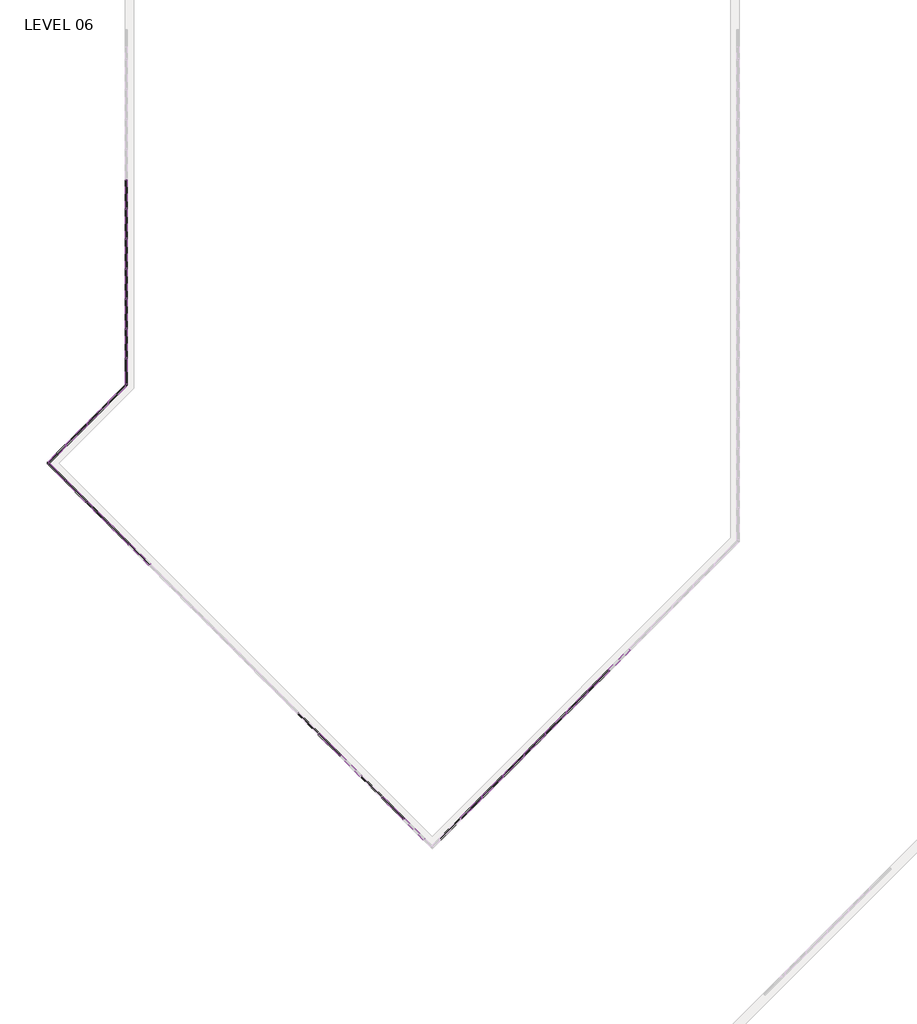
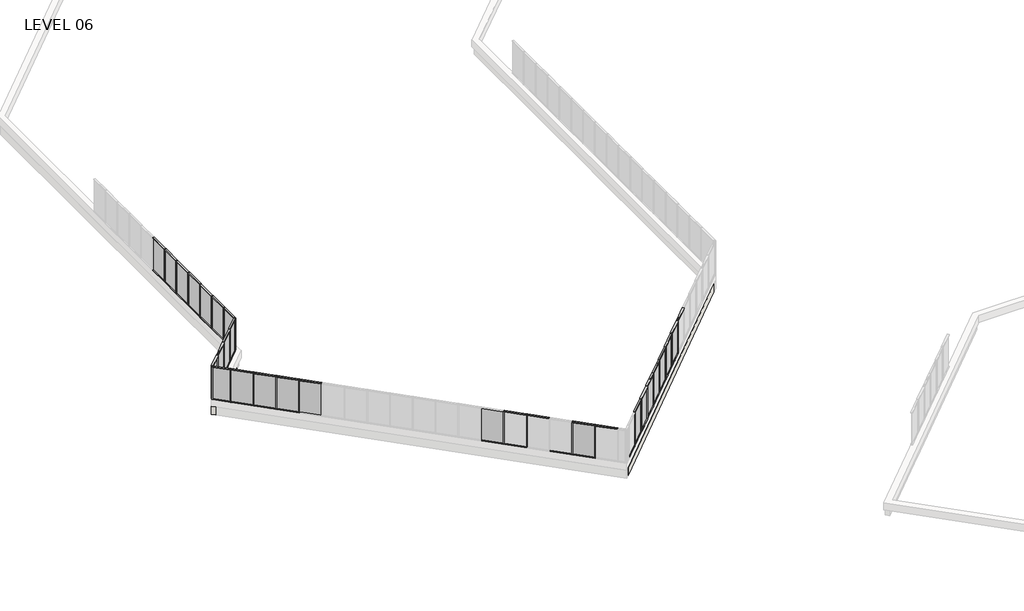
# One storey, part 3 of 17: 84 members, 25 plates, 2 walls.
"""IFC4 building model written with IfcOpenShell, lengths in millimetres."""

from ifc_helpers import new_model, si_unit, origin, place, context, project, spatial, faceted_brep, transform, mapped, element, save
from components import member_5247f267, member_e44af9ab, member_800970d4, member_45eb7f2e, member_53409b32, member_43bac76b, member_0b71a88d, plate_67294edd, plate_aaac5d3d, plate_048e4634, plate_9c66726c, plate_e0fd5134, plate_15429445, plate_0d1907f3, plate_903242d9

model = new_model("IFC4")

# Units and contexts
model_context = context("Model", 3, world=origin())
ifc_project = project(units=[si_unit("LENGTHUNIT", "METRE", prefix="MILLI")], contexts=[model_context])

# Site, building, storey
site = spatial("IfcSite", under=ifc_project)
building = spatial("IfcBuilding", under=site)
storey = spatial("IfcBuildingStorey", under=building, Name="LEVEL 06", Elevation=19596.1)

# Members
placement = place(None, origin())
member_shape = member_5247f267(model_context)
element("IfcMember", 1, ObjectType="Rectangular Mullion : 2\" x 4.5\" rectangular", at=placement, inside=storey, context=model_context, shape_type="MappedRepresentation", body=[
    mapped(member_shape, transform((-32784.0347164, 49110.5675885, 22186.9), x_axis=(0.0, 0.0, 1.0), y_axis=(1.0, 0.0, 0.0), z_axis=(0.0, 1.0, 0.0))),
])
element("IfcMember", 2, ObjectType="Rectangular Mullion : 2\" x 4.5\" rectangular", at=placement, inside=storey, context=model_context, shape_type="MappedRepresentation", body=[
    mapped(member_shape, transform((-32784.0347164, 50634.5675885, 22186.9), x_axis=(0.0, 0.0, 1.0), y_axis=(1.0, 0.0, 0.0), z_axis=(0.0, 1.0, 0.0))),
])
element("IfcMember", 3, ObjectType="Rectangular Mullion : 2\" x 4.5\" rectangular", at=placement, inside=storey, context=model_context, shape_type="MappedRepresentation", body=[
    mapped(member_shape, transform((-32784.0347164, 56730.5675885, 22186.9), x_axis=(0.0, 0.0, 1.0), y_axis=(1.0, 0.0, 0.0), z_axis=(0.0, 1.0, 0.0))),
])
element("IfcMember", 4, ObjectType="Rectangular Mullion : 2\" x 4.5\" rectangular", at=placement, inside=storey, context=model_context, shape_type="MappedRepresentation", body=[
    mapped(member_shape, transform((-32784.0347164, 52158.5675885, 22186.9), x_axis=(0.0, 0.0, 1.0), y_axis=(1.0, 0.0, 0.0), z_axis=(0.0, 1.0, 0.0))),
])
element("IfcMember", 5, ObjectType="Rectangular Mullion : 2\" x 4.5\" rectangular", at=placement, inside=storey, context=model_context, shape_type="MappedRepresentation", body=[
    mapped(member_shape, transform((-32784.0347164, 55206.5675885, 22186.9), x_axis=(0.0, 0.0, 1.0), y_axis=(1.0, 0.0, 0.0), z_axis=(0.0, 1.0, 0.0))),
])
element("IfcMember", 6, ObjectType="Rectangular Mullion : 2\" x 4.5\" rectangular", at=placement, inside=storey, context=model_context, shape_type="MappedRepresentation", body=[
    mapped(member_shape, transform((-32784.0347164, 53682.5675885, 22186.9), x_axis=(0.0, 0.0, 1.0), y_axis=(1.0, 0.0, 0.0), z_axis=(0.0, 1.0, 0.0))),
])
element("IfcMember", 7, ObjectType="Rectangular Mullion : 2\" x 4.5\" rectangular", at=placement, inside=storey, context=model_context, shape_type="MappedRepresentation", body=[
    mapped(member_shape, transform((-8176.5824051, 31737.5637642, 22186.9), x_axis=(0.0, 0.0, 1.0), y_axis=(-0.7071067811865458, 0.7071067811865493, 0.0), z_axis=(-0.7071067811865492, -0.7071067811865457, 0.0))),
])
element("IfcMember", 8, ObjectType="Rectangular Mullion : 2\" x 4.5\" rectangular", at=placement, inside=storey, context=model_context, shape_type="MappedRepresentation", body=[
    mapped(member_shape, transform((-9254.1983379, 30659.9478314, 22186.9), x_axis=(0.0, 0.0, 1.0), y_axis=(-0.7071067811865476, 0.7071067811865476, 0.0), z_axis=(-0.7071067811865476, -0.7071067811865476, 0.0))),
])
element("IfcMember", 9, ObjectType="Rectangular Mullion : 2\" x 4.5\" rectangular", at=placement, inside=storey, context=model_context, shape_type="MappedRepresentation", body=[
    mapped(member_shape, transform((-10331.8142707, 29582.3318986, 22186.9), x_axis=(0.0, 0.0, 1.0), y_axis=(-0.7071067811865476, 0.7071067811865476, 0.0), z_axis=(-0.7071067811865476, -0.7071067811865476, 0.0))),
])
element("IfcMember", 10, ObjectType="Rectangular Mullion : 2\" x 4.5\" rectangular", at=placement, inside=storey, context=model_context, shape_type="MappedRepresentation", body=[
    mapped(member_shape, transform((-11409.4302035, 28504.7159658, 22186.9), x_axis=(0.0, 0.0, 1.0), y_axis=(-0.7071067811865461, 0.707106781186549, 0.0), z_axis=(-0.707106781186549, -0.7071067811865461, 0.0))),
])
element("IfcMember", 11, ObjectType="Rectangular Mullion : 2\" x 4.5\" rectangular", at=placement, inside=storey, context=model_context, shape_type="MappedRepresentation", body=[
    mapped(member_shape, transform((-13564.6768709, 26349.4692984, 22186.9), x_axis=(0.0, 0.0, 1.0), y_axis=(-0.7071067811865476, 0.7071067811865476, 0.0), z_axis=(-0.7071067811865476, -0.7071067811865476, 0.0))),
])
element("IfcMember", 12, ObjectType="Rectangular Mullion : 2\" x 4.5\" rectangular", at=placement, inside=storey, context=model_context, shape_type="MappedRepresentation", body=[
    mapped(member_shape, transform((-12487.0535372, 27427.0926321, 22186.9), x_axis=(0.0, 0.0, 1.0), y_axis=(-0.7071067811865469, 0.7071067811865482, 0.0), z_axis=(-0.7071067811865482, -0.7071067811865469, 0.0))),
])
element("IfcMember", 13, ObjectType="Rectangular Mullion : 2\" x 4.5\" rectangular", at=placement, inside=storey, context=model_context, shape_type="MappedRepresentation", body=[
    mapped(member_shape, transform((-14642.3076054, 25271.8385639, 22186.9), x_axis=(0.0, 0.0, 1.0), y_axis=(-0.7071067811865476, 0.7071067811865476, 0.0), z_axis=(-0.7071067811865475, -0.7071067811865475, 0.0))),
])
element("IfcMember", 14, ObjectType="Rectangular Mullion : 2\" x 4.5\" rectangular", at=placement, inside=storey, context=model_context, shape_type="MappedRepresentation", body=[
    mapped(member_shape, transform((-15719.9383399, 24194.2078294, 22186.9), x_axis=(0.0, 0.0, 1.0), y_axis=(-0.7071067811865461, 0.7071067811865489, 0.0), z_axis=(-0.7071067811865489, -0.7071067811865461, 0.0))),
])
element("IfcMember", 15, ObjectType="Rectangular Mullion : 2\" x 4.5\" rectangular", at=placement, inside=storey, context=model_context, shape_type="MappedRepresentation", body=[
    mapped(member_shape, transform((-19717.6908029, 25235.9175394, 22186.9), x_axis=(0.0, 0.0, 1.0), y_axis=(0.7071067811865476, 0.7071067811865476, 0.0), z_axis=(-0.7071067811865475, 0.7071067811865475, 0.0))),
])
element("IfcMember", 16, ObjectType="Rectangular Mullion : 2\" x 4.5\" rectangular", at=placement, inside=storey, context=model_context, shape_type="MappedRepresentation", body=[
    mapped(member_shape, transform((-22950.547272, 28468.7740085, 22186.9), x_axis=(0.0, 0.0, 1.0), y_axis=(0.7071067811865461, 0.707106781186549, 0.0), z_axis=(-0.707106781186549, 0.7071067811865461, 0.0))),
])
element("IfcMember", 17, ObjectType="Rectangular Mullion : 2\" x 4.5\" rectangular", at=placement, inside=storey, context=model_context, shape_type="MappedRepresentation", body=[
    mapped(member_shape, transform((-18640.0600684, 24158.2868049, 22186.9), x_axis=(0.0, 0.0, 1.0), y_axis=(0.7071067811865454, 0.7071067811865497, 0.0), z_axis=(-0.7071067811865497, 0.7071067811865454, 0.0))),
])
element("IfcMember", 18, ObjectType="Rectangular Mullion : 2\" x 4.5\" rectangular", at=placement, inside=storey, context=model_context, shape_type="MappedRepresentation", body=[
    mapped(member_shape, transform((-21872.9344047, 27391.1611412, 22186.9), x_axis=(0.0, 0.0, 1.0), y_axis=(0.7071067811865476, 0.7071067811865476, 0.0), z_axis=(-0.7071067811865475, 0.7071067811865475, 0.0))),
])
element("IfcMember", 19, ObjectType="Rectangular Mullion : 2\" x 4.5\" rectangular", at=placement, inside=storey, context=model_context, shape_type="MappedRepresentation", body=[
    mapped(member_shape, transform((-32625.1316457, 38143.3583822, 22186.9), x_axis=(0.0, 0.0, 1.0), y_axis=(0.7071067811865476, 0.7071067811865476, 0.0), z_axis=(-0.7071067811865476, 0.7071067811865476, 0.0))),
])
element("IfcMember", 20, ObjectType="Rectangular Mullion : 2\" x 4.5\" rectangular", at=placement, inside=storey, context=model_context, shape_type="MappedRepresentation", body=[
    mapped(member_shape, transform((-33702.7623802, 39220.9891167, 22186.9), x_axis=(0.0, 0.0, 1.0), y_axis=(0.7071067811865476, 0.7071067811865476, 0.0), z_axis=(-0.7071067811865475, 0.7071067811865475, 0.0))),
])
element("IfcMember", 21, ObjectType="Rectangular Mullion : 2\" x 4.5\" rectangular", at=placement, inside=storey, context=model_context, shape_type="MappedRepresentation", body=[
    mapped(member_shape, transform((-34780.3931147, 40298.6198512, 22186.9), x_axis=(0.0, 0.0, 1.0), y_axis=(0.7071067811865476, 0.7071067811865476, 0.0), z_axis=(-0.7071067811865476, 0.7071067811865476, 0.0))),
])
element("IfcMember", 22, ObjectType="Rectangular Mullion : 2\" x 4.5\" rectangular", at=placement, inside=storey, context=model_context, shape_type="MappedRepresentation", body=[
    mapped(member_shape, transform((-35858.0238493, 41376.2505858, 22186.9), x_axis=(0.0, 0.0, 1.0), y_axis=(0.7071067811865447, 0.7071067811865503, 0.0), z_axis=(-0.7071067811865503, 0.7071067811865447, 0.0))),
])
element("IfcMember", 23, ObjectType="Rectangular Mullion : 2\" x 4.5\" rectangular", at=placement, inside=storey, context=model_context, shape_type="MappedRepresentation", body=[
    mapped(member_shape, transform((-34789.2847655, 44248.423675, 22186.9), x_axis=(0.0, 0.0, 1.0), y_axis=(0.7071067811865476, -0.7071067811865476, 0.0), z_axis=(0.7071067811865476, 0.7071067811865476, 0.0))),
])
element("IfcMember", 24, ObjectType="Rectangular Mullion : 2\" x 4.5\" rectangular", at=placement, inside=storey, context=model_context, shape_type="MappedRepresentation", body=[
    mapped(member_shape, transform((-33711.654031, 45326.0544096, 22186.9), x_axis=(0.0, 0.0, 1.0), y_axis=(0.7071067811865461, -0.707106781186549, 0.0), z_axis=(0.7071067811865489, 0.707106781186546, 0.0))),
])
element("IfcMember", 25, ObjectType="Rectangular Mullion : 2\" x 4.5\" rectangular", at=placement, inside=storey, context=model_context, shape_type="MappedRepresentation", body=[
    mapped(member_shape, transform((-32784.0347164, 47637.3675885, 19596.1), x_axis=(0.0, 0.0, -1.0), y_axis=(1.0, 0.0, 0.0), z_axis=(0.0, -1.0, 0.0))),
])
element("IfcMember", 26, ObjectType="Rectangular Mullion : 2\" x 4.5\" rectangular", at=placement, inside=storey, context=model_context, shape_type="MappedRepresentation", body=[
    mapped(member_shape, transform((-32784.0347164, 49161.3675885, 19596.1), x_axis=(0.0, 0.0, -1.0), y_axis=(1.0, 0.0, 0.0), z_axis=(0.0, -1.0, 0.0))),
])
element("IfcMember", 27, ObjectType="Rectangular Mullion : 2\" x 4.5\" rectangular", at=placement, inside=storey, context=model_context, shape_type="MappedRepresentation", body=[
    mapped(member_shape, transform((-32784.0347164, 50685.3675885, 19596.1), x_axis=(0.0, 0.0, -1.0), y_axis=(1.0, 0.0, 0.0), z_axis=(0.0, -1.0, 0.0))),
])
element("IfcMember", 28, ObjectType="Rectangular Mullion : 2\" x 4.5\" rectangular", at=placement, inside=storey, context=model_context, shape_type="MappedRepresentation", body=[
    mapped(member_shape, transform((-32784.0347164, 52209.3675885, 19596.1), x_axis=(0.0, 0.0, -1.0), y_axis=(1.0, 0.0, 0.0), z_axis=(0.0, -1.0, 0.0))),
])
element("IfcMember", 29, ObjectType="Rectangular Mullion : 2\" x 4.5\" rectangular", at=placement, inside=storey, context=model_context, shape_type="MappedRepresentation", body=[
    mapped(member_shape, transform((-32784.0347164, 55257.3675885, 19596.1), x_axis=(0.0, 0.0, -1.0), y_axis=(1.0, 0.0, 0.0), z_axis=(0.0, -1.0, 0.0))),
])
element("IfcMember", 30, ObjectType="Rectangular Mullion : 2\" x 4.5\" rectangular", at=placement, inside=storey, context=model_context, shape_type="MappedRepresentation", body=[
    mapped(member_shape, transform((-32784.0347164, 53733.3675885, 19596.1), x_axis=(0.0, 0.0, -1.0), y_axis=(1.0, 0.0, 0.0), z_axis=(0.0, -1.0, 0.0))),
])
element("IfcMember", 31, ObjectType="Rectangular Mullion : 2\" x 4.5\" rectangular", at=placement, inside=storey, context=model_context, shape_type="MappedRepresentation", body=[
    mapped(member_shape, transform((-8212.5034296, 31701.6427397, 19596.1), x_axis=(0.0, 0.0, -1.0), y_axis=(-0.7071067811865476, 0.7071067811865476, 0.0), z_axis=(0.7071067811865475, 0.7071067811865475, 0.0))),
])
element("IfcMember", 32, ObjectType="Rectangular Mullion : 2\" x 4.5\" rectangular", at=placement, inside=storey, context=model_context, shape_type="MappedRepresentation", body=[
    mapped(member_shape, transform((-9290.1193624, 30624.0268069, 19596.1), x_axis=(0.0, 0.0, -1.0), y_axis=(-0.7071067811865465, 0.7071067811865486, 0.0), z_axis=(0.7071067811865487, 0.7071067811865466, 0.0))),
])
element("IfcMember", 33, ObjectType="Rectangular Mullion : 2\" x 4.5\" rectangular", at=placement, inside=storey, context=model_context, shape_type="MappedRepresentation", body=[
    mapped(member_shape, transform((-10367.7352952, 29546.4108741, 19596.1), x_axis=(0.0, 0.0, -1.0), y_axis=(-0.7071067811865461, 0.707106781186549, 0.0), z_axis=(0.707106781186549, 0.7071067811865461, 0.0))),
])
element("IfcMember", 34, ObjectType="Rectangular Mullion : 2\" x 4.5\" rectangular", at=placement, inside=storey, context=model_context, shape_type="MappedRepresentation", body=[
    mapped(member_shape, transform((-11445.351228, 28468.7949413, 19596.1), x_axis=(0.0, 0.0, -1.0), y_axis=(-0.7071067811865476, 0.7071067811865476, 0.0), z_axis=(0.7071067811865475, 0.7071067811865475, 0.0))),
])
element("IfcMember", 35, ObjectType="Rectangular Mullion : 2\" x 4.5\" rectangular", at=placement, inside=storey, context=model_context, shape_type="MappedRepresentation", body=[
    mapped(member_shape, transform((-13600.5978954, 26313.5482739, 19596.1), x_axis=(0.0, 0.0, -1.0), y_axis=(-0.7071067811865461, 0.7071067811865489, 0.0), z_axis=(0.7071067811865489, 0.7071067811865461, 0.0))),
])
element("IfcMember", 36, ObjectType="Rectangular Mullion : 2\" x 4.5\" rectangular", at=placement, inside=storey, context=model_context, shape_type="MappedRepresentation", body=[
    mapped(member_shape, transform((-12522.9745617, 27391.1716076, 19596.1), x_axis=(0.0, 0.0, -1.0), y_axis=(-0.7071067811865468, 0.7071067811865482, 0.0), z_axis=(0.7071067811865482, 0.7071067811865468, 0.0))),
])
element("IfcMember", 37, ObjectType="Rectangular Mullion : 2\" x 4.5\" rectangular", at=placement, inside=storey, context=model_context, shape_type="MappedRepresentation", body=[
    mapped(member_shape, transform((-14678.2286299, 25235.9175394, 19596.1), x_axis=(0.0, 0.0, -1.0), y_axis=(-0.7071067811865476, 0.7071067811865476, 0.0), z_axis=(0.7071067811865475, 0.7071067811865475, 0.0))),
])
element("IfcMember", 38, ObjectType="Rectangular Mullion : 2\" x 4.5\" rectangular", at=placement, inside=storey, context=model_context, shape_type="MappedRepresentation", body=[
    mapped(member_shape, transform((-15755.8593644, 24158.2868049, 19596.1), x_axis=(0.0, 0.0, -1.0), y_axis=(-0.7071067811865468, 0.7071067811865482, 0.0), z_axis=(0.7071067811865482, 0.7071067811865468, 0.0))),
])
element("IfcMember", 39, ObjectType="Rectangular Mullion : 2\" x 4.5\" rectangular", at=placement, inside=storey, context=model_context, shape_type="MappedRepresentation", body=[
    mapped(member_shape, transform((-19753.6118274, 25271.8385639, 19596.1), x_axis=(0.0, 0.0, -1.0), y_axis=(0.7071067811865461, 0.707106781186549, 0.0), z_axis=(0.7071067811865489, -0.707106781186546, 0.0))),
])
element("IfcMember", 40, ObjectType="Rectangular Mullion : 2\" x 4.5\" rectangular", at=placement, inside=storey, context=model_context, shape_type="MappedRepresentation", body=[
    mapped(member_shape, transform((-22986.4682965, 28504.6950329, 19596.1), x_axis=(0.0, 0.0, -1.0), y_axis=(0.7071067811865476, 0.7071067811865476, 0.0), z_axis=(0.7071067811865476, -0.7071067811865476, 0.0))),
])
element("IfcMember", 41, ObjectType="Rectangular Mullion : 2\" x 4.5\" rectangular", at=placement, inside=storey, context=model_context, shape_type="MappedRepresentation", body=[
    mapped(member_shape, transform((-18675.9810929, 24194.2078294, 19596.1), x_axis=(0.0, 0.0, -1.0), y_axis=(0.7071067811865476, 0.7071067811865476, 0.0), z_axis=(0.7071067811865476, -0.7071067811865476, 0.0))),
])
element("IfcMember", 42, ObjectType="Rectangular Mullion : 2\" x 4.5\" rectangular", at=placement, inside=storey, context=model_context, shape_type="MappedRepresentation", body=[
    mapped(member_shape, transform((-21908.8554292, 27427.0821657, 19596.1), x_axis=(0.0, 0.0, -1.0), y_axis=(0.7071067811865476, 0.7071067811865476, 0.0), z_axis=(0.7071067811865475, -0.7071067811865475, 0.0))),
])
element("IfcMember", 43, ObjectType="Rectangular Mullion : 2\" x 4.5\" rectangular", at=placement, inside=storey, context=model_context, shape_type="MappedRepresentation", body=[
    mapped(member_shape, transform((-32661.0526702, 38179.2794067, 19596.1), x_axis=(0.0, 0.0, -1.0), y_axis=(0.7071067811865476, 0.7071067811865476, 0.0), z_axis=(0.7071067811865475, -0.7071067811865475, 0.0))),
])
element("IfcMember", 44, ObjectType="Rectangular Mullion : 2\" x 4.5\" rectangular", at=placement, inside=storey, context=model_context, shape_type="MappedRepresentation", body=[
    mapped(member_shape, transform((-33738.6834047, 39256.9101412, 19596.1), x_axis=(0.0, 0.0, -1.0), y_axis=(0.7071067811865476, 0.7071067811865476, 0.0), z_axis=(0.7071067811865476, -0.7071067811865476, 0.0))),
])
element("IfcMember", 45, ObjectType="Rectangular Mullion : 2\" x 4.5\" rectangular", at=placement, inside=storey, context=model_context, shape_type="MappedRepresentation", body=[
    mapped(member_shape, transform((-34816.3141392, 40334.5408757, 19596.1), x_axis=(0.0, 0.0, -1.0), y_axis=(0.7071067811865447, 0.7071067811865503, 0.0), z_axis=(0.7071067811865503, -0.7071067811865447, 0.0))),
])
element("IfcMember", 46, ObjectType="Rectangular Mullion : 2\" x 4.5\" rectangular", at=placement, inside=storey, context=model_context, shape_type="MappedRepresentation", body=[
    mapped(member_shape, transform((-34753.363741, 44284.3446995, 19596.1), x_axis=(0.0, 0.0, -1.0), y_axis=(0.7071067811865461, -0.707106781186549, 0.0), z_axis=(-0.7071067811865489, -0.707106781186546, 0.0))),
])
element("IfcMember", 47, ObjectType="Rectangular Mullion : 2\" x 4.5\" rectangular", at=placement, inside=storey, context=model_context, shape_type="MappedRepresentation", body=[
    mapped(member_shape, transform((-35830.9944756, 43206.713965, 19596.1), x_axis=(0.0, 0.0, -1.0), y_axis=(0.7071067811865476, -0.7071067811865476, 0.0), z_axis=(-0.7071067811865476, -0.7071067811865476, 0.0))),
])
member_2_shape = member_e44af9ab(model_context)
element("IfcMember", 48, ObjectType="Rectangular Mullion : 2\" x 4.5\" rectangular", at=placement, inside=storey, context=model_context, shape_type="MappedRepresentation", body=[
    mapped(member_2_shape, transform((-32784.0347164, 47611.9675885, 19596.1), x_axis=(0.0, 1.0, 0.0), y_axis=(1.0, 0.0, 0.0), z_axis=(0.0, 0.0, -1.0))),
])
element("IfcMember", 49, ObjectType="Rectangular Mullion : 2\" x 4.5\" rectangular", at=placement, inside=storey, context=model_context, shape_type="MappedRepresentation", body=[
    mapped(member_2_shape, transform((-32784.0347164, 49135.9675885, 19596.1), x_axis=(0.0, 1.0, 0.0), y_axis=(1.0, 0.0, 0.0), z_axis=(0.0, 0.0, -1.0))),
])
element("IfcMember", 50, ObjectType="Rectangular Mullion : 2\" x 4.5\" rectangular", at=placement, inside=storey, context=model_context, shape_type="MappedRepresentation", body=[
    mapped(member_2_shape, transform((-32784.0347164, 50659.9675885, 19596.1), x_axis=(0.0, 1.0, 0.0), y_axis=(1.0, 0.0, 0.0), z_axis=(0.0, 0.0, -1.0))),
])
element("IfcMember", 51, ObjectType="Rectangular Mullion : 2\" x 4.5\" rectangular", at=placement, inside=storey, context=model_context, shape_type="MappedRepresentation", body=[
    mapped(member_2_shape, transform((-32784.0347164, 52183.9675885, 19596.1), x_axis=(0.0, 1.0, 0.0), y_axis=(1.0, 0.0, 0.0), z_axis=(0.0, 0.0, -1.0))),
])
element("IfcMember", 52, ObjectType="Rectangular Mullion : 2\" x 4.5\" rectangular", at=placement, inside=storey, context=model_context, shape_type="MappedRepresentation", body=[
    mapped(member_2_shape, transform((-32784.0347164, 55231.9675885, 19596.1), x_axis=(0.0, 1.0, 0.0), y_axis=(1.0, 0.0, 0.0), z_axis=(0.0, 0.0, -1.0))),
])
element("IfcMember", 53, ObjectType="Rectangular Mullion : 2\" x 4.5\" rectangular", at=placement, inside=storey, context=model_context, shape_type="MappedRepresentation", body=[
    mapped(member_2_shape, transform((-32784.0347164, 53707.9675885, 19596.1), x_axis=(0.0, 1.0, 0.0), y_axis=(1.0, 0.0, 0.0), z_axis=(0.0, 0.0, -1.0))),
])
element("IfcMember", 54, ObjectType="Rectangular Mullion : 2\" x 4.5\" rectangular", at=placement, inside=storey, context=model_context, shape_type="MappedRepresentation", body=[
    mapped(member_2_shape, transform((-8194.5429174, 31719.6032519, 19596.1), x_axis=(-0.7071067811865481, -0.7071067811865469, 0.0), y_axis=(-0.7071067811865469, 0.7071067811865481, 0.0), z_axis=(0.0, 0.0, -1.0))),
])
element("IfcMember", 55, ObjectType="Rectangular Mullion : 2\" x 4.5\" rectangular", at=placement, inside=storey, context=model_context, shape_type="MappedRepresentation", body=[
    mapped(member_2_shape, transform((-9272.1588502, 30641.9873191, 19596.1), x_axis=(-0.7071067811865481, -0.7071067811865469, 0.0), y_axis=(-0.7071067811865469, 0.7071067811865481, 0.0), z_axis=(0.0, 0.0, -1.0))),
])
element("IfcMember", 56, ObjectType="Rectangular Mullion : 2\" x 4.5\" rectangular", at=placement, inside=storey, context=model_context, shape_type="MappedRepresentation", body=[
    mapped(member_2_shape, transform((-10349.774783, 29564.3713863, 19596.1), x_axis=(-0.7071067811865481, -0.7071067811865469, 0.0), y_axis=(-0.7071067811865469, 0.7071067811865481, 0.0), z_axis=(0.0, 0.0, -1.0))),
])
element("IfcMember", 57, ObjectType="Rectangular Mullion : 2\" x 4.5\" rectangular", at=placement, inside=storey, context=model_context, shape_type="MappedRepresentation", body=[
    mapped(member_2_shape, transform((-11427.3907158, 28486.7554535, 19596.1), x_axis=(-0.7071067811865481, -0.7071067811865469, 0.0), y_axis=(-0.7071067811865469, 0.7071067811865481, 0.0), z_axis=(0.0, 0.0, -1.0))),
])
element("IfcMember", 58, ObjectType="Rectangular Mullion : 2\" x 4.5\" rectangular", at=placement, inside=storey, context=model_context, shape_type="MappedRepresentation", body=[
    mapped(member_2_shape, transform((-13582.6373831, 26331.5087862, 19596.1), x_axis=(-0.7071067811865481, -0.7071067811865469, 0.0), y_axis=(-0.7071067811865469, 0.7071067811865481, 0.0), z_axis=(0.0, 0.0, -1.0))),
])
element("IfcMember", 59, ObjectType="Rectangular Mullion : 2\" x 4.5\" rectangular", at=placement, inside=storey, context=model_context, shape_type="MappedRepresentation", body=[
    mapped(member_2_shape, transform((-12505.0140495, 27409.1321198, 19596.1), x_axis=(-0.7071067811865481, -0.7071067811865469, 0.0), y_axis=(-0.7071067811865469, 0.7071067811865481, 0.0), z_axis=(0.0, 0.0, -1.0))),
])
element("IfcMember", 60, ObjectType="Rectangular Mullion : 2\" x 4.5\" rectangular", at=placement, inside=storey, context=model_context, shape_type="MappedRepresentation", body=[
    mapped(member_2_shape, transform((-14660.2681176, 25253.8780517, 19596.1), x_axis=(-0.7071067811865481, -0.7071067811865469, 0.0), y_axis=(-0.7071067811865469, 0.7071067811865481, 0.0), z_axis=(0.0, 0.0, -1.0))),
])
element("IfcMember", 61, ObjectType="Rectangular Mullion : 2\" x 4.5\" rectangular", at=placement, inside=storey, context=model_context, shape_type="MappedRepresentation", body=[
    mapped(member_2_shape, transform((-15737.8988522, 24176.2473171, 19596.1), x_axis=(-0.7071067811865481, -0.7071067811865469, 0.0), y_axis=(-0.7071067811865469, 0.7071067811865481, 0.0), z_axis=(0.0, 0.0, -1.0))),
])
element("IfcMember", 62, ObjectType="Rectangular Mullion : 2\" x 4.5\" rectangular", at=placement, inside=storey, context=model_context, shape_type="MappedRepresentation", body=[
    mapped(member_2_shape, transform((-19735.6513152, 25253.8780517, 19596.1), x_axis=(-0.7071067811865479, 0.7071067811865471, 0.0), y_axis=(0.7071067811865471, 0.7071067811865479, 0.0), z_axis=(0.0, 0.0, -1.0))),
])
element("IfcMember", 63, ObjectType="Rectangular Mullion : 2\" x 4.5\" rectangular", at=placement, inside=storey, context=model_context, shape_type="MappedRepresentation", body=[
    mapped(member_2_shape, transform((-22968.5077842, 28486.7345207, 19596.1), x_axis=(-0.7071067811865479, 0.7071067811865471, 0.0), y_axis=(0.7071067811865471, 0.7071067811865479, 0.0), z_axis=(0.0, 0.0, -1.0))),
])
element("IfcMember", 64, ObjectType="Rectangular Mullion : 2\" x 4.5\" rectangular", at=placement, inside=storey, context=model_context, shape_type="MappedRepresentation", body=[
    mapped(member_2_shape, transform((-18658.0205806, 24176.2473171, 19596.1), x_axis=(-0.7071067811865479, 0.7071067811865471, 0.0), y_axis=(0.7071067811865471, 0.7071067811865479, 0.0), z_axis=(0.0, 0.0, -1.0))),
])
element("IfcMember", 65, ObjectType="Rectangular Mullion : 2\" x 4.5\" rectangular", at=placement, inside=storey, context=model_context, shape_type="MappedRepresentation", body=[
    mapped(member_2_shape, transform((-21890.894917, 27409.1216534, 19596.1), x_axis=(-0.7071067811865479, 0.7071067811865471, 0.0), y_axis=(0.7071067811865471, 0.7071067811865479, 0.0), z_axis=(0.0, 0.0, -1.0))),
])
element("IfcMember", 66, ObjectType="Rectangular Mullion : 2\" x 4.5\" rectangular", at=placement, inside=storey, context=model_context, shape_type="MappedRepresentation", body=[
    mapped(member_2_shape, transform((-32643.0921579, 38161.3188944, 19596.1), x_axis=(-0.7071067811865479, 0.7071067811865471, 0.0), y_axis=(0.7071067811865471, 0.7071067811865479, 0.0), z_axis=(0.0, 0.0, -1.0))),
])
element("IfcMember", 67, ObjectType="Rectangular Mullion : 2\" x 4.5\" rectangular", at=placement, inside=storey, context=model_context, shape_type="MappedRepresentation", body=[
    mapped(member_2_shape, transform((-33720.7228924, 39238.9496289, 19596.1), x_axis=(-0.7071067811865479, 0.7071067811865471, 0.0), y_axis=(0.7071067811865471, 0.7071067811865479, 0.0), z_axis=(0.0, 0.0, -1.0))),
])
element("IfcMember", 68, ObjectType="Rectangular Mullion : 2\" x 4.5\" rectangular", at=placement, inside=storey, context=model_context, shape_type="MappedRepresentation", body=[
    mapped(member_2_shape, transform((-34798.353627, 40316.5803635, 19596.1), x_axis=(-0.7071067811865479, 0.7071067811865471, 0.0), y_axis=(0.7071067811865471, 0.7071067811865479, 0.0), z_axis=(0.0, 0.0, -1.0))),
])
element("IfcMember", 69, ObjectType="Rectangular Mullion : 2\" x 4.5\" rectangular", at=placement, inside=storey, context=model_context, shape_type="MappedRepresentation", body=[
    mapped(member_2_shape, transform((-35875.9843615, 41394.211098, 19596.1), x_axis=(-0.7071067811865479, 0.7071067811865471, 0.0), y_axis=(0.7071067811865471, 0.7071067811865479, 0.0), z_axis=(0.0, 0.0, -1.0))),
])
element("IfcMember", 70, ObjectType="Rectangular Mullion : 2\" x 4.5\" rectangular", at=placement, inside=storey, context=model_context, shape_type="MappedRepresentation", body=[
    mapped(member_2_shape, transform((-34771.3242533, 44266.3841873, 19596.1), x_axis=(0.7071067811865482, 0.7071067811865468, 0.0), y_axis=(0.7071067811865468, -0.7071067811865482, 0.0), z_axis=(0.0, 0.0, -1.0))),
])
element("IfcMember", 71, ObjectType="Rectangular Mullion : 2\" x 4.5\" rectangular", at=placement, inside=storey, context=model_context, shape_type="MappedRepresentation", body=[
    mapped(member_2_shape, transform((-33693.6935187, 45344.0149218, 19596.1), x_axis=(0.7071067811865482, 0.7071067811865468, 0.0), y_axis=(0.7071067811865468, -0.7071067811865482, 0.0), z_axis=(0.0, 0.0, -1.0))),
])
element("IfcMember", 72, ObjectType="Rectangular Mullion : 2\" x 4.5\" rectangular", at=placement, inside=storey, context=model_context, shape_type="MappedRepresentation", body=[
    mapped(member_2_shape, transform((-35848.9549878, 43188.7534527, 19596.1), x_axis=(0.7071067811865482, 0.7071067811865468, 0.0), y_axis=(0.7071067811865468, -0.7071067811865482, 0.0), z_axis=(0.0, 0.0, -1.0))),
])
member_3_shape = member_800970d4(model_context)
element("IfcMember", 73, ObjectType="Rectangular Mullion : 2\" x 4.5\" rectangular", at=placement, inside=storey, context=model_context, shape_type="MappedRepresentation", body=[
    mapped(member_3_shape, transform((-36759.740852, 42277.9675885, 19596.1), x_axis=(-0.7071067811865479, 0.7071067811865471, 0.0), y_axis=(0.7071067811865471, 0.7071067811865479, 0.0), z_axis=(0.0, 0.0, -1.0))),
])
element("IfcMember", 74, ObjectType="Rectangular Mullion : 2\" x 4.5\" rectangular", at=placement, inside=storey, context=model_context, shape_type="MappedRepresentation", body=[
    mapped(member_3_shape, transform((-32784.0347164, 46253.6737241, 19596.1), x_axis=(0.7071067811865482, 0.7071067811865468, 0.0), y_axis=(0.7071067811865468, -0.7071067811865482, 0.0), z_axis=(0.0, 0.0, -1.0))),
])
element("IfcMember", 75, ObjectType="Rectangular Mullion : 2\" x 4.5\" rectangular", at=placement, inside=storey, context=model_context, shape_type="MappedRepresentation", body=[
    mapped(member_3_shape, transform((-32784.0347164, 46253.6737241, 22186.9), x_axis=(0.0, -1.0, 0.0), y_axis=(1.0, 0.0, 0.0), z_axis=(0.0, 0.0, 1.0))),
])
element("IfcMember", 76, ObjectType="Rectangular Mullion : 2\" x 4.5\" rectangular", at=placement, inside=storey, context=model_context, shape_type="MappedRepresentation", body=[
    mapped(member_3_shape, transform((-36759.740852, 42277.9675885, 22186.9), x_axis=(-0.7071067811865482, -0.7071067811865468, 0.0), y_axis=(0.7071067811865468, -0.7071067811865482, 0.0), z_axis=(0.0, 0.0, 1.0))),
])
member_4_shape = member_45eb7f2e(model_context)
element("IfcMember", 77, ObjectType="Rectangular Mullion : 2\" x 4.5\" rectangular", at=placement, inside=storey, context=model_context, shape_type="MappedRepresentation", body=[
    mapped(member_4_shape, transform((-32784.0347164, 47586.5675885, 22186.9), x_axis=(0.0, 0.0, 1.0), y_axis=(1.0, 0.0, 0.0), z_axis=(0.0, 1.0, 0.0))),
])
element("IfcMember", 78, ObjectType="Rectangular Mullion : 2\" x 4.5\" rectangular", at=placement, inside=storey, context=model_context, shape_type="MappedRepresentation", body=[
    mapped(member_4_shape, transform((-32784.0347164, 46304.4737241, 19596.1), x_axis=(0.0, 0.0, -1.0), y_axis=(1.0, 0.0, 0.0), z_axis=(0.0, -1.0, 0.0))),
])
member_5_shape = member_53409b32(model_context)
element("IfcMember", 79, ObjectType="Rectangular Mullion : 2\" x 4.5\" rectangular", at=placement, inside=storey, context=model_context, shape_type="MappedRepresentation", body=[
    mapped(member_5_shape, transform((-36723.8198275, 42242.046564, 22186.9), x_axis=(0.0, 0.0, 1.0), y_axis=(0.7071067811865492, 0.7071067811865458, 0.0), z_axis=(-0.7071067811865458, 0.7071067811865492, 0.0))),
])
element("IfcMember", 80, ObjectType="Rectangular Mullion : 2\" x 4.5\" rectangular", at=placement, inside=storey, context=model_context, shape_type="MappedRepresentation", body=[
    mapped(member_5_shape, transform((-35893.9448737, 41412.1716102, 19596.1), x_axis=(0.0, 0.0, -1.0), y_axis=(0.7071067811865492, 0.7071067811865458, 0.0), z_axis=(0.7071067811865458, -0.7071067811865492, 0.0))),
])
member_6_shape = member_43bac76b(model_context)
element("IfcMember", 81, ObjectType="Rectangular Mullion : 2\" x 4.5\" rectangular", at=placement, inside=storey, context=model_context, shape_type="MappedRepresentation", body=[
    mapped(member_6_shape, transform((-32819.9557409, 46217.7526997, 22186.9), x_axis=(0.0, 0.0, 1.0), y_axis=(0.7071067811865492, -0.7071067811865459, 0.0), z_axis=(0.7071067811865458, 0.7071067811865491, 0.0))),
])
member_7_shape = member_0b71a88d(model_context)
element("IfcMember", 82, ObjectType="Rectangular Mullion : 2\" x 4.5\" rectangular", at=placement, inside=storey, context=model_context, shape_type="MappedRepresentation", body=[
    mapped(member_7_shape, transform((-36723.8198275, 42313.888613, 19596.1), x_axis=(0.0, 0.0, -1.0), y_axis=(0.7071067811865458, -0.7071067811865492, 0.0), z_axis=(-0.7071067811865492, -0.7071067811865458, 0.0))),
])
element("IfcMember", 83, ObjectType="Rectangular Mullion : 2\" x 4.5\" rectangular", at=placement, inside=storey, context=model_context, shape_type="MappedRepresentation", body=[
    mapped(member_6_shape, transform((-33675.7330065, 45361.975434, 19596.1), x_axis=(0.0, 0.0, -1.0), y_axis=(0.7071067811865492, -0.7071067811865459, 0.0), z_axis=(-0.7071067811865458, -0.7071067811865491, 0.0))),
])
element("IfcMember", 84, ObjectType="Rectangular Mullion : 2\" x 4.5\" rectangular", at=placement, inside=storey, context=model_context, shape_type="MappedRepresentation", body=[
    mapped(member_7_shape, transform((-35866.9155, 43170.7929405, 22186.9), x_axis=(0.0, 0.0, 1.0), y_axis=(0.7071067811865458, -0.7071067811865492, 0.0), z_axis=(0.7071067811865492, 0.7071067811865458, 0.0))),
])

# Plates
plate_shape = plate_67294edd(model_context)
element("IfcPlate", 85, ObjectType="System Panel : 1/4\" Glass", at=placement, inside=storey, context=model_context, shape_type="MappedRepresentation", body=[
    mapped(plate_shape, transform((-32784.0347164, 48373.9675885, 19646.9), x_axis=(0.0, 1.0, 0.0), y_axis=(-1.0, 0.0, 0.0), z_axis=(0.0, 0.0, 1.0))),
])
element("IfcPlate", 86, ObjectType="System Panel : 1/4\" Glass", at=placement, inside=storey, context=model_context, shape_type="MappedRepresentation", body=[
    mapped(plate_shape, transform((-32784.0347164, 49897.9675885, 19646.9), x_axis=(0.0, 1.0, 0.0), y_axis=(-1.0, 0.0, 0.0), z_axis=(0.0, 0.0, 1.0))),
])
element("IfcPlate", 87, ObjectType="System Panel : 1/4\" Glass", at=placement, inside=storey, context=model_context, shape_type="MappedRepresentation", body=[
    mapped(plate_shape, transform((-32784.0347164, 51421.9675885, 19646.9), x_axis=(0.0, 1.0, 0.0), y_axis=(-1.0, 0.0, 0.0), z_axis=(0.0, 0.0, 1.0))),
])
element("IfcPlate", 88, ObjectType="System Panel : 1/4\" Glass", at=placement, inside=storey, context=model_context, shape_type="MappedRepresentation", body=[
    mapped(plate_shape, transform((-32784.0347164, 52945.9675885, 19646.9), x_axis=(0.0, 1.0, 0.0), y_axis=(-1.0, 0.0, 0.0), z_axis=(0.0, 0.0, 1.0))),
])
element("IfcPlate", 89, ObjectType="System Panel : 1/4\" Glass", at=placement, inside=storey, context=model_context, shape_type="MappedRepresentation", body=[
    mapped(plate_shape, transform((-32784.0347164, 55993.9675885, 19646.9), x_axis=(0.0, 1.0, 0.0), y_axis=(-1.0, 0.0, 0.0), z_axis=(0.0, 0.0, 1.0))),
])
element("IfcPlate", 90, ObjectType="System Panel : 1/4\" Glass", at=placement, inside=storey, context=model_context, shape_type="MappedRepresentation", body=[
    mapped(plate_shape, transform((-32784.0347164, 54469.9675885, 19646.9), x_axis=(0.0, 1.0, 0.0), y_axis=(-1.0, 0.0, 0.0), z_axis=(0.0, 0.0, 1.0))),
])
element("IfcPlate", 91, ObjectType="System Panel : 1/4\" Glass", at=placement, inside=storey, context=model_context, shape_type="MappedRepresentation", body=[
    mapped(plate_shape, transform((-14121.4527504, 25792.6934189, 19646.9), x_axis=(-0.7071067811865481, -0.7071067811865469, 0.0), y_axis=(0.7071067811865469, -0.7071067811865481, 0.0), z_axis=(0.0, 0.0, 1.0))),
])
element("IfcPlate", 92, ObjectType="System Panel : 1/4\" Glass", at=placement, inside=storey, context=model_context, shape_type="MappedRepresentation", body=[
    mapped(plate_shape, transform((-15199.0834849, 24715.0626844, 19646.9), x_axis=(-0.7071067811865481, -0.7071067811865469, 0.0), y_axis=(0.7071067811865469, -0.7071067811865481, 0.0), z_axis=(0.0, 0.0, 1.0))),
])
element("IfcPlate", 93, ObjectType="System Panel : 1/4\" Glass", at=placement, inside=storey, context=model_context, shape_type="MappedRepresentation", body=[
    mapped(plate_shape, transform((-32104.2767907, 37622.5035271, 19646.9), x_axis=(-0.7071067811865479, 0.7071067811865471, 0.0), y_axis=(-0.7071067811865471, -0.7071067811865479, 0.0), z_axis=(0.0, 0.0, 1.0))),
])
element("IfcPlate", 94, ObjectType="System Panel : 1/4\" Glass", at=placement, inside=storey, context=model_context, shape_type="MappedRepresentation", body=[
    mapped(plate_shape, transform((-19196.8359479, 24715.0626844, 19646.9), x_axis=(-0.7071067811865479, 0.7071067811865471, 0.0), y_axis=(-0.7071067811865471, -0.7071067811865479, 0.0), z_axis=(0.0, 0.0, 1.0))),
])
element("IfcPlate", 95, ObjectType="System Panel : 1/4\" Glass", at=placement, inside=storey, context=model_context, shape_type="MappedRepresentation", body=[
    mapped(plate_shape, transform((-33181.9075252, 38700.1342617, 19646.9), x_axis=(-0.7071067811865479, 0.7071067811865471, 0.0), y_axis=(-0.7071067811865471, -0.7071067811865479, 0.0), z_axis=(0.0, 0.0, 1.0))),
])
element("IfcPlate", 96, ObjectType="System Panel : 1/4\" Glass", at=placement, inside=storey, context=model_context, shape_type="MappedRepresentation", body=[
    mapped(plate_shape, transform((-34259.5382597, 39777.7649962, 19646.9), x_axis=(-0.7071067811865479, 0.7071067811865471, 0.0), y_axis=(-0.7071067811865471, -0.7071067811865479, 0.0), z_axis=(0.0, 0.0, 1.0))),
])
element("IfcPlate", 97, ObjectType="System Panel : 1/4\" Glass", at=placement, inside=storey, context=model_context, shape_type="MappedRepresentation", body=[
    mapped(plate_shape, transform((-35337.1689942, 40855.3957307, 19646.9), x_axis=(-0.7071067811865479, 0.7071067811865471, 0.0), y_axis=(-0.7071067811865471, -0.7071067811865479, 0.0), z_axis=(0.0, 0.0, 1.0))),
])
element("IfcPlate", 98, ObjectType="System Panel : 1/4\" Glass", at=placement, inside=storey, context=model_context, shape_type="MappedRepresentation", body=[
    mapped(plate_shape, transform((-34232.508886, 44805.1995545, 19646.9), x_axis=(0.7071067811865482, 0.7071067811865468, 0.0), y_axis=(-0.7071067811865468, 0.7071067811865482, 0.0), z_axis=(0.0, 0.0, 1.0))),
])
element("IfcPlate", 99, ObjectType="System Panel : 1/4\" Glass", at=placement, inside=storey, context=model_context, shape_type="MappedRepresentation", body=[
    mapped(plate_shape, transform((-35310.1396205, 43727.56882, 19646.9), x_axis=(0.7071067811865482, 0.7071067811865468, 0.0), y_axis=(-0.7071067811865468, 0.7071067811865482, 0.0), z_axis=(0.0, 0.0, 1.0))),
])
plate_2_shape = plate_aaac5d3d(model_context)
element("IfcPlate", 100, ObjectType="System Panel : 1/4\" Glass", at=placement, inside=storey, context=model_context, shape_type="MappedRepresentation", body=[
    mapped(plate_2_shape, transform((-8733.3508838, 31180.7952855, 19646.9), x_axis=(-0.7071067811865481, -0.7071067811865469, 0.0), y_axis=(0.7071067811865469, -0.7071067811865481, 0.0), z_axis=(0.0, 0.0, 1.0))),
])
element("IfcPlate", 101, ObjectType="System Panel : 1/4\" Glass", at=placement, inside=storey, context=model_context, shape_type="MappedRepresentation", body=[
    mapped(plate_2_shape, transform((-9810.9668166, 30103.1793527, 19646.9), x_axis=(-0.7071067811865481, -0.7071067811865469, 0.0), y_axis=(0.7071067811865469, -0.7071067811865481, 0.0), z_axis=(0.0, 0.0, 1.0))),
])
element("IfcPlate", 102, ObjectType="System Panel : 1/4\" Glass", at=placement, inside=storey, context=model_context, shape_type="MappedRepresentation", body=[
    mapped(plate_2_shape, transform((-10888.5827494, 29025.5634199, 19646.9), x_axis=(-0.7071067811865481, -0.7071067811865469, 0.0), y_axis=(0.7071067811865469, -0.7071067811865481, 0.0), z_axis=(0.0, 0.0, 1.0))),
])
plate_3_shape = plate_048e4634(model_context)
element("IfcPlate", 103, ObjectType="System Panel : 1/4\" Glass", at=placement, inside=storey, context=model_context, shape_type="MappedRepresentation", body=[
    mapped(plate_3_shape, transform((-23507.3052842, 29025.5320207, 19646.9), x_axis=(-0.7071067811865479, 0.7071067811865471, 0.0), y_axis=(-0.7071067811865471, -0.7071067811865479, 0.0), z_axis=(0.0, 0.0, 1.0))),
])
plate_4_shape = plate_9c66726c(model_context)
element("IfcPlate", 104, ObjectType="System Panel : 1/4\" Glass", at=placement, inside=storey, context=model_context, shape_type="MappedRepresentation", body=[
    mapped(plate_4_shape, transform((-32784.0347164, 46945.5206563, 19646.9), x_axis=(0.0, 1.0, 0.0), y_axis=(-1.0, 0.0, 0.0), z_axis=(0.0, 0.0, 1.0))),
])
plate_5_shape = plate_e0fd5134(model_context)
element("IfcPlate", 105, ObjectType="System Panel : 1/4\" Glass", at=placement, inside=storey, context=model_context, shape_type="MappedRepresentation", body=[
    mapped(plate_5_shape, transform((-11966.2023826, 27947.9437867, 19646.9), x_axis=(-0.7071067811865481, -0.7071067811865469, 0.0), y_axis=(0.7071067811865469, -0.7071067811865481, 0.0), z_axis=(0.0, 0.0, 1.0))),
])
element("IfcPlate", 106, ObjectType="System Panel : 1/4\" Glass", at=placement, inside=storey, context=model_context, shape_type="MappedRepresentation", body=[
    mapped(plate_5_shape, transform((-13043.8257163, 26870.320453, 19646.9), x_axis=(-0.7071067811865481, -0.7071067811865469, 0.0), y_axis=(0.7071067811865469, -0.7071067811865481, 0.0), z_axis=(0.0, 0.0, 1.0))),
])
plate_6_shape = plate_15429445(model_context)
element("IfcPlate", 107, ObjectType="System Panel : 1/4\" Glass", at=placement, inside=storey, context=model_context, shape_type="MappedRepresentation", body=[
    mapped(plate_6_shape, transform((-36295.3676638, 42742.3407768, 19646.9), x_axis=(0.7071067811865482, 0.7071067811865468, 0.0), y_axis=(-0.7071067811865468, 0.7071067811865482, 0.0), z_axis=(0.0, 0.0, 1.0))),
])
plate_7_shape = plate_0d1907f3(model_context)
element("IfcPlate", 108, ObjectType="System Panel : 1/4\" Glass", at=placement, inside=storey, context=model_context, shape_type="MappedRepresentation", body=[
    mapped(plate_7_shape, transform((-33247.8443737, 45789.8640669, 19646.9), x_axis=(0.7071067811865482, 0.7071067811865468, 0.0), y_axis=(-0.7071067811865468, 0.7071067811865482, 0.0), z_axis=(0.0, 0.0, 1.0))),
])
plate_8_shape = plate_903242d9(model_context)
element("IfcPlate", 109, ObjectType="System Panel : 1/4\" Glass", at=placement, inside=storey, context=model_context, shape_type="MappedRepresentation", body=[
    mapped(plate_8_shape, transform((-36308.8823506, 41827.1090871, 19646.9), x_axis=(-0.7071067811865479, 0.7071067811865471, 0.0), y_axis=(-0.7071067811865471, -0.7071067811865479, 0.0), z_axis=(0.0, 0.0, 1.0))),
])

# Walls
element("IfcWall", 110, ObjectType="01-CONCRETE-12", at=placement, inside=storey, context=model_context, shape_type="Brep", body=[
    faceted_brep([(-32841.1847164, 46277.3460292, 18415.0), (-36840.5631571, 42277.9675885, 18415.0), (-36840.5631571, 42277.9675885, 19037.3), (-32841.1847164, 46277.3460292, 19037.3), (-32841.1847164, 45846.2937354, 18415.0), (-32841.1847164, 45846.2937354, 19037.3), (-36409.5108633, 42277.9675885, 19037.3), (-36625.0370102, 42062.4414416, 19037.3), (-36625.0370102, 42062.4414416, 18415.0), (-36409.5108633, 42277.9675885, 18415.0)], [[[0, 1, 2, 3]], [[4, 5, 6, 7, 8, 9]], [[1, 0, 4, 9, 8]], [[3, 2, 7, 6, 5]], [[0, 3, 5, 4]], [[2, 1, 8, 7]]]),
])
element("IfcWall", 111, ObjectType="01-CONCRETE-12", at=placement, inside=storey, context=model_context, shape_type="Brep", body=[
    faceted_brep([(-16982.4335695, 22850.8902947, 18415.0), (-1859.5347164, 37973.7891478, 18415.0), (-1859.5347164, 37973.7891478, 19037.3), (-16982.4335695, 22850.8902947, 19037.3), (-17197.9597164, 23066.4164416, 18415.0), (-17197.9597164, 23066.4164416, 19037.3), (-12895.6477899, 27368.7283682, 19037.3), (-12464.595496, 27799.780662, 19037.3), (-2149.4557409, 38114.9204171, 19037.3), (-1859.5347164, 38404.8414416, 19037.3), (-1859.5347164, 38404.8414416, 18415.0), (-2149.4557409, 38114.9204171, 18415.0), (-12464.595496, 27799.780662, 18415.0), (-12895.6477899, 27368.7283682, 18415.0)], [[[0, 1, 2, 3]], [[4, 5, 6, 7, 8, 9, 10, 11, 12, 13]], [[1, 0, 4, 13, 12, 11, 10]], [[3, 2, 9, 8, 7, 6, 5]], [[0, 3, 5, 4]], [[2, 1, 10, 9]]]),
])

save(model, "model.ifc")
